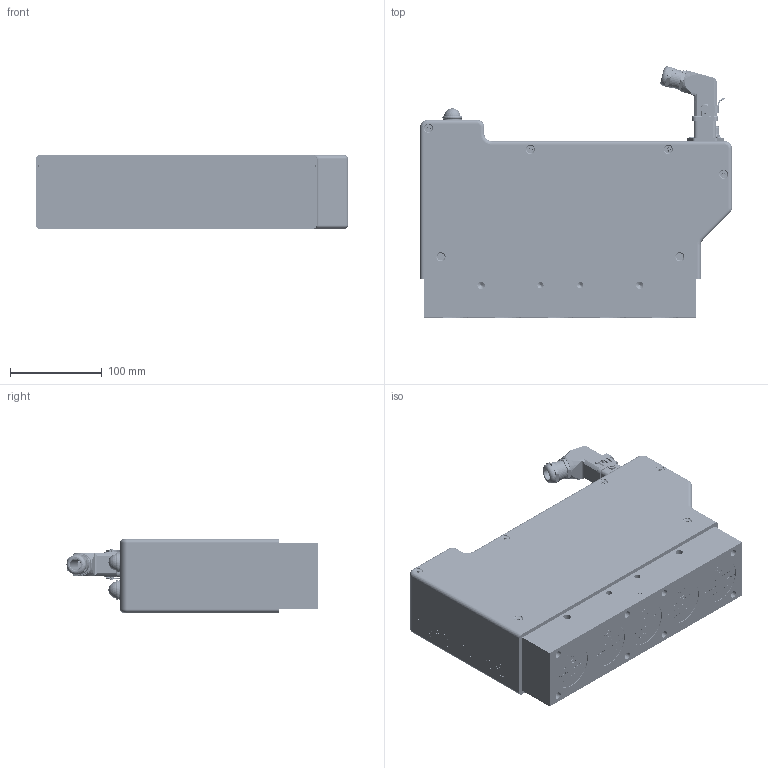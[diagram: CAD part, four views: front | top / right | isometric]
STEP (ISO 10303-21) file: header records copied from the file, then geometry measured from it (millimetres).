
FILE_DESCRIPTION (( 'STEP AP214' ), '1' );
FILE_NAME ('81501320_p.STEP', '2020-05-13T19:55:16', ( '' ), ( '' ), 'SwSTEP 2.0', 'SolidWorks 2018', '' );
FILE_SCHEMA (( 'AUTOMOTIVE_DESIGN' ));
Length unit declared in the file: millimetre
Products named in the file (1): 81501320_p
Bounding box: 339.5 x 273.3 x 80 mm (x, y, z)
Volume: 4942754.3 mm3; surface area: 283414.6 mm2
Topology: 36 solids, 55 shells, 7775 faces, 20907 edges, 13747 vertices
Faces by surface type: plane 3537, bspline 2452, cylinder 1341, cone 341, torus 76, sphere 28
Entity records: 479129 total; most frequent: CARTESIAN_POINT 220754, ORIENTED_EDGE 41622, DIRECTION 27002, EDGE_CURVE 20811, VERTEX_POINT 13738, LINE 11936, VECTOR 11936, EDGE_LOOP 8479
